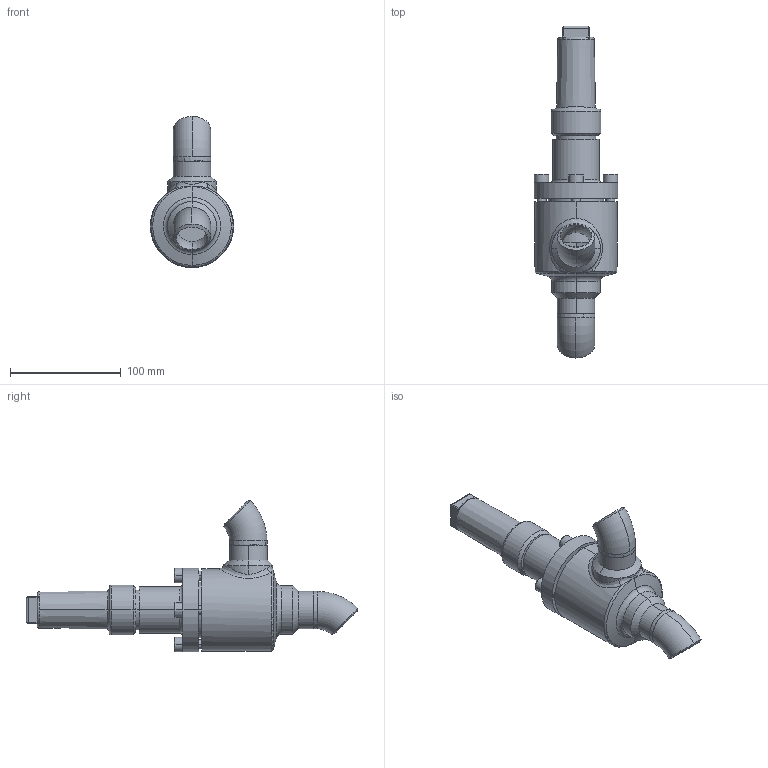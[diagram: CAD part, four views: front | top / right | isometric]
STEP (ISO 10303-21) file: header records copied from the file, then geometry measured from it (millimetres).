
FILE_DESCRIPTION (( 'STEP AP214' ), '1' );
FILE_NAME ('RVA29300D12-DN025_R1_PS40.STEP', '2006-04-28T05:31:50', ( 'Herr Grams' ), ( 'AWP GmbH' ), 'SwSTEP 2.0', 'SolidWorks 2002296', '' );
FILE_SCHEMA (( 'AUTOMOTIVE_DESIGN' ));
Length unit declared in the file: millimetre
Products named in the file (10): RVA29300D12-DN025_R1_PS40; RVA29300E13_Deck-Schr-DN25-32_Standard; Deckel29300E13-DN25-32_Standard; Zylinderschraube-DIN912_M 8x 25; Kappe16402_DN010-32_Standard; Gehäuse-kpl16300-DN025_R1_Standard; Gehäuse16400-DN025_Standard; bead16300-Geh-025-2_Standard; bead16300-Geh-025-1_Standard; Rohrbogen 45°_R1-Fase_Rohrbogen-DN025-45°
Assembly tree (13 placements, depth 3):
  RVA29300D12-DN025_R1_PS40
    Gehäuse-kpl16300-DN025_R1_Standard
      bead16300-Geh-025-2_Standard
      Rohrbogen 45°_R1-Fase_Rohrbogen-DN025-45°  x2
      bead16300-Geh-025-1_Standard
      Gehäuse16400-DN025_Standard
    RVA29300E13_Deck-Schr-DN25-32_Standard
      Zylinderschraube-DIN912_M 8x 25  x4
      Deckel29300E13-DN25-32_Standard
    Kappe16402_DN010-32_Standard
Bounding box: 75 x 299.28 x 136.28 mm (x, y, z)
Volume: 447844.1 mm3; surface area: 108592.7 mm2
Topology: 11 solids, 11 shells, 238 faces, 537 edges, 338 vertices
Faces by surface type: cylinder 77, plane 74, cone 45, torus 31, bspline 11
Entity records: 30742 total; most frequent: CARTESIAN_POINT 26176, DIRECTION 853, ORIENTED_EDGE 802, EDGE_CURVE 401, AXIS2_PLACEMENT_3D 362, VERTEX_POINT 252, EDGE_LOOP 203, CIRCLE 181
